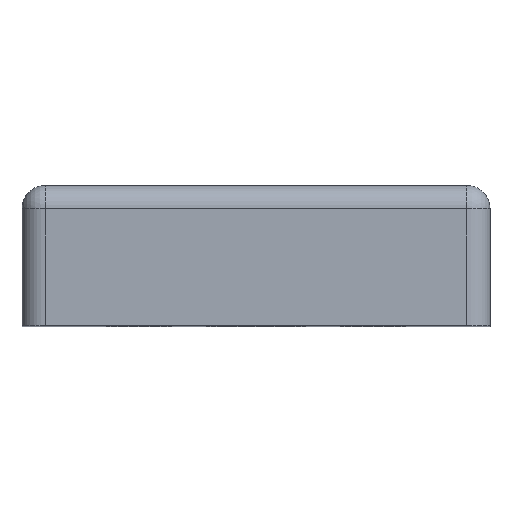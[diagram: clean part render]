
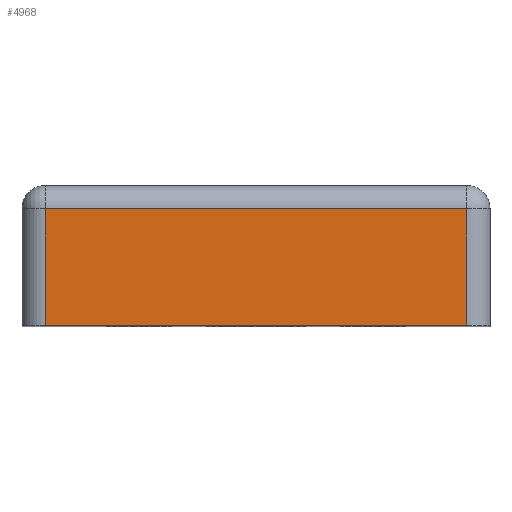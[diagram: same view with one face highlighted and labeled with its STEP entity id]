
A CAD part, top view. The second image highlights one B-rep face of the part: STEP entity #4968.
In plain terms, the highlighted planar face has unit normal (0, 0, 1).
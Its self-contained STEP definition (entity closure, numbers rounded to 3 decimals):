
#20 = DIRECTION ( 'NONE',  ( -1., 0., 0. ) ) ;
#67 = ORIENTED_EDGE ( 'NONE', *, *, #1594, .T. ) ;
#210 = CARTESIAN_POINT ( 'NONE',  ( -18., 0., 20. ) ) ;
#235 = CARTESIAN_POINT ( 'NONE',  ( 18., 12., 20. ) ) ;
#290 = PLANE ( 'NONE',  #2143 ) ;
#295 = DIRECTION ( 'NONE',  ( 0., -1., 0. ) ) ;
#586 = LINE ( 'NONE', #1993, #4901 ) ;
#1093 = VERTEX_POINT ( 'NONE', #210 ) ;
#1352 = LINE ( 'NONE', #1763, #1465 ) ;
#1465 = VECTOR ( 'NONE', #20, 1000. ) ;
#1594 = EDGE_CURVE ( 'NONE', #2736, #4408, #1352, .T. ) ;
#1619 = CARTESIAN_POINT ( 'NONE',  ( -18., 10., 20. ) ) ;
#1662 = CARTESIAN_POINT ( 'NONE',  ( 18., 0., 20. ) ) ;
#1763 = CARTESIAN_POINT ( 'NONE',  ( -18., 10., 20. ) ) ;
#1857 = VECTOR ( 'NONE', #295, 1000. ) ;
#1878 = CARTESIAN_POINT ( 'NONE',  ( -18., 12., 20. ) ) ;
#1993 = CARTESIAN_POINT ( 'NONE',  ( -18., 0., 20. ) ) ;
#2051 = CARTESIAN_POINT ( 'NONE',  ( -18., 12., 20. ) ) ;
#2080 = DIRECTION ( 'NONE',  ( -1., 0., 0. ) ) ;
#2100 = ORIENTED_EDGE ( 'NONE', *, *, #3860, .T. ) ;
#2120 = EDGE_CURVE ( 'NONE', #1093, #3546, #586, .T. ) ;
#2143 = AXIS2_PLACEMENT_3D ( 'NONE', #2051, #2519, #2080 ) ;
#2519 = DIRECTION ( 'NONE',  ( 0., 0., -1. ) ) ;
#2736 = VERTEX_POINT ( 'NONE', #4875 ) ;
#2840 = DIRECTION ( 'NONE',  ( 1., 0., 0. ) ) ;
#3546 = VERTEX_POINT ( 'NONE', #1662 ) ;
#3772 = LINE ( 'NONE', #235, #1857 ) ;
#3860 = EDGE_CURVE ( 'NONE', #4408, #1093, #4534, .T. ) ;
#4024 = DIRECTION ( 'NONE',  ( 0., -1., 0. ) ) ;
#4294 = ORIENTED_EDGE ( 'NONE', *, *, #2120, .T. ) ;
#4320 = ORIENTED_EDGE ( 'NONE', *, *, #4438, .F. ) ;
#4408 = VERTEX_POINT ( 'NONE', #1619 ) ;
#4438 = EDGE_CURVE ( 'NONE', #2736, #3546, #3772, .T. ) ;
#4534 = LINE ( 'NONE', #1878, #4564 ) ;
#4564 = VECTOR ( 'NONE', #4024, 1000. ) ;
#4598 = EDGE_LOOP ( 'NONE', ( #4320, #67, #2100, #4294 ) ) ;
#4745 = FACE_OUTER_BOUND ( 'NONE', #4598, .T. ) ;
#4875 = CARTESIAN_POINT ( 'NONE',  ( 18., 10., 20. ) ) ;
#4901 = VECTOR ( 'NONE', #2840, 1000. ) ;
#4968 = ADVANCED_FACE ( 'NONE', ( #4745 ), #290, .F. ) ;
